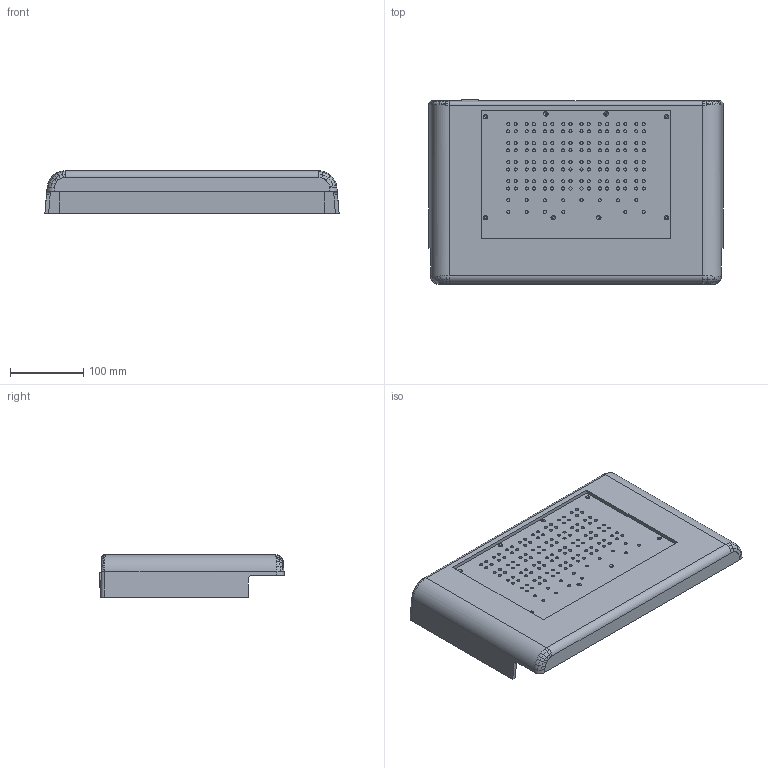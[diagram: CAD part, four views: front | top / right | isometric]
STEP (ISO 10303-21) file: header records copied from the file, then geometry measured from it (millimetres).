
FILE_DESCRIPTION( ( 'Unknown' ), '1' );
FILE_NAME( 'F:/Model/WMB_775041_02_Rev2.stp', 'Unknown', ( 'Unknown' ), ( 'Unknown' ), 'PSStep 10.1', 'Unknown', ' ' );
FILE_SCHEMA( ( 'AUTOMOTIVE_DESIGN { 1 0 10303 214 1 1 1 1 }' ) );
Length unit declared in the file: millimetre
Products named in the file (4): Assem1;     Face;     Face_0;     Face_1
Bounding box: 402 x 252.5 x 58 mm (x, y, z)
Surface area: 985509.1 mm2
Topology: 6 solids, 6 shells, 686 faces, 1824 edges, 1174 vertices
Faces by surface type: cylinder 378, bspline 176, plane 116, cone 16
Full cylindrical faces by diameter (mm): 3 x24, 3.2 x8, 4.2 x284
Entity records: 15967 total; most frequent: CARTESIAN_POINT 3622, DIRECTION 1537, ORIENTED_EDGE 1476, EDGE_LOOP 823, EDGE_CURVE 738, AXIS2_PLACEMENT_3D 693, PRESENTATION_STYLE_ASSIGNMENT 689, COLOUR_RGB 689
